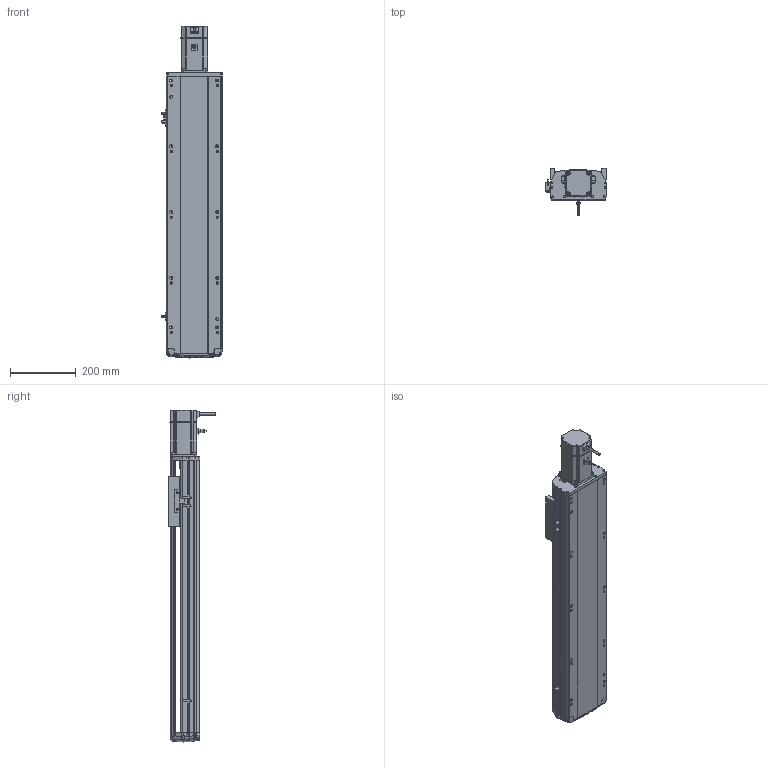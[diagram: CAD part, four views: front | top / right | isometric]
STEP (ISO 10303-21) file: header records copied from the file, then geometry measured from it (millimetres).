
FILE_DESCRIPTION (( 'STEP AP214' ), '1' );
FILE_NAME ('RTH17-XX-600-E-M75-C4.STEP', '2025-10-24T09:38:04', ( '' ), ( '' ), 'SwSTEP 2.0', 'SolidWorks 2018', '' );
FILE_SCHEMA (( 'AUTOMOTIVE_DESIGN' ));
Length unit declared in the file: millimetre
Products named in the file (9): N_RTH17-E-011底座^RTH17-XX-XX-E-M75-C4（方程式）; N_RTH17-GY-001P^RTH17-XX-XX-E-M75-C4（方程式）; N_OMRON EE-SX672 換覜ん^RTH17-XX-XX-E-M75-C4ㄗ源最宒ㄘ; RTH17-XX-600-E-M75-C4; N_RTH17-E-008-P75电机板^RTH17-XX-XX-E-M75-C4（方程式）; N_RTH-L-012 感应片(外置)^RTH17-XX-XX-E-M75-C4（方程式）; N_M75^RTH17-XX-XX-E-M75-C4（方程式）; N_RTH17-E-004丝杆螺母连接座^RTH17-XX-XX-E-M75-C4（方程式）; N_RTH17-E-007上盖^RTH17-XX-XX-E-M75-C4（方程式）
Assembly tree (10 placements, depth 2):
  RTH17-XX-600-E-M75-C4
    N_RTH17-E-011底座^RTH17-XX-XX-E-M75-C4（方程式）
    N_RTH17-E-007上盖^RTH17-XX-XX-E-M75-C4（方程式）
    N_M75^RTH17-XX-XX-E-M75-C4（方程式）
    N_RTH17-E-008-P75电机板^RTH17-XX-XX-E-M75-C4（方程式）
    N_OMRON EE-SX672 換覜ん^RTH17-XX-XX-E-M75-C4ㄗ源最宒ㄘ  x3
    N_RTH-L-012 感应片(外置)^RTH17-XX-XX-E-M75-C4（方程式）
    N_RTH17-E-004丝杆螺母连接座^RTH17-XX-XX-E-M75-C4（方程式）
    N_RTH17-GY-001P^RTH17-XX-XX-E-M75-C4（方程式）
Bounding box: 183.5 x 145.7 x 1008.19 mm (x, y, z)
Volume: 7482096.5 mm3; surface area: 988874.1 mm2
Topology: 9 solids, 11 shells, 1764 faces, 4875 edges, 3158 vertices
Faces by surface type: plane 822, cylinder 528, bspline 377, cone 28, torus 9
Entity records: 51766 total; most frequent: CARTESIAN_POINT 20409, ORIENTED_EDGE 6774, DIRECTION 5687, EDGE_CURVE 3391, VERTEX_POINT 2194, AXIS2_PLACEMENT_3D 1931, LINE 1825, VECTOR 1825
